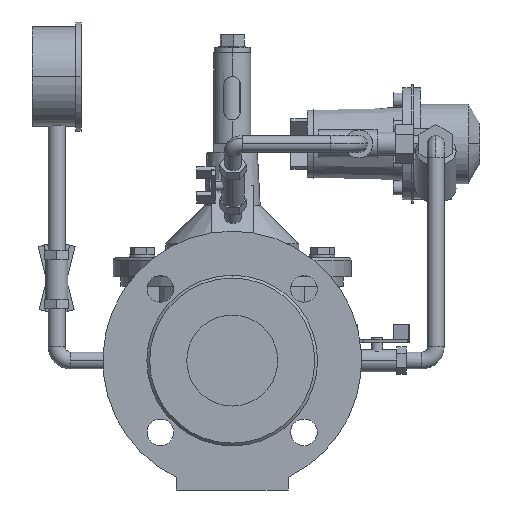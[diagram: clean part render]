
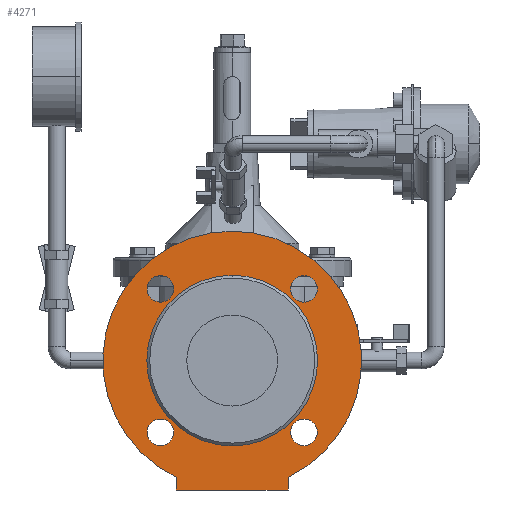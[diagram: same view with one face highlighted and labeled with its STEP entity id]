
A CAD part, left-side view. The second image highlights one B-rep face of the part: STEP entity #4271.
In plain terms, the highlighted planar face has unit normal (-1, 0, 0).
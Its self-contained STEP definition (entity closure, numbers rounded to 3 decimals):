
#4271=ADVANCED_FACE('',(#8214,#8215,#8216,#8217,#8218,#8219),#8220,.F.);
#8214=FACE_BOUND('',#13098,.T.);
#8215=FACE_BOUND('',#13099,.T.);
#8216=FACE_BOUND('',#13100,.T.);
#8217=FACE_BOUND('',#13101,.T.);
#8218=FACE_BOUND('',#13102,.T.);
#8219=FACE_OUTER_BOUND('',#13103,.T.);
#8220=PLANE('',#13104);
#13098=EDGE_LOOP('',(#20018,#20019));
#13099=EDGE_LOOP('',(#20020,#20021));
#13100=EDGE_LOOP('',(#20022,#20023));
#13101=EDGE_LOOP('',(#20024,#20025));
#13102=EDGE_LOOP('',(#20026,#20027));
#13103=EDGE_LOOP('',(#20028,#20029,#20030,#20031,#20032));
#13104=AXIS2_PLACEMENT_3D('',#20033,#20034,#20035);
#20018=ORIENTED_EDGE('',*,*,#28273,.T.);
#20019=ORIENTED_EDGE('',*,*,#28274,.T.);
#20020=ORIENTED_EDGE('',*,*,#27562,.T.);
#20021=ORIENTED_EDGE('',*,*,#28213,.T.);
#20022=ORIENTED_EDGE('',*,*,#26583,.T.);
#20023=ORIENTED_EDGE('',*,*,#26386,.T.);
#20024=ORIENTED_EDGE('',*,*,#27539,.T.);
#20025=ORIENTED_EDGE('',*,*,#28275,.T.);
#20026=ORIENTED_EDGE('',*,*,#27034,.T.);
#20027=ORIENTED_EDGE('',*,*,#27441,.T.);
#20028=ORIENTED_EDGE('',*,*,#28276,.F.);
#20029=ORIENTED_EDGE('',*,*,#28277,.F.);
#20030=ORIENTED_EDGE('',*,*,#26895,.F.);
#20031=ORIENTED_EDGE('',*,*,#27866,.F.);
#20032=ORIENTED_EDGE('',*,*,#27298,.F.);
#20033=CARTESIAN_POINT('',(2.0,0.0,0.));
#20034=DIRECTION('',(1.0,0.0,0.));
#20035=DIRECTION('',(0.,0.0,-1.0));
#26386=EDGE_CURVE('',#30968,#30966,#30969,.T.);
#26583=EDGE_CURVE('',#30966,#30968,#31296,.T.);
#26895=EDGE_CURVE('',#31809,#31810,#31811,.T.);
#27034=EDGE_CURVE('',#32027,#32029,#32031,.T.);
#27298=EDGE_CURVE('',#32444,#32446,#32447,.T.);
#27441=EDGE_CURVE('',#32029,#32027,#32654,.T.);
#27539=EDGE_CURVE('',#32804,#32806,#32808,.T.);
#27562=EDGE_CURVE('',#32836,#32838,#32840,.T.);
#27866=EDGE_CURVE('',#32446,#31809,#33282,.T.);
#28213=EDGE_CURVE('',#32838,#32836,#33779,.T.);
#28273=EDGE_CURVE('',#33861,#33862,#33863,.T.);
#28274=EDGE_CURVE('',#33862,#33861,#33864,.T.);
#28275=EDGE_CURVE('',#32806,#32804,#33865,.T.);
#28276=EDGE_CURVE('',#33866,#32444,#33867,.T.);
#28277=EDGE_CURVE('',#31810,#33866,#33868,.T.);
#30966=VERTEX_POINT('',#37717);
#30968=VERTEX_POINT('',#37720);
#30969=CIRCLE('',#37721,9.5);
#31296=CIRCLE('',#38251,9.5);
#31809=VERTEX_POINT('',#38938);
#31810=VERTEX_POINT('',#38939);
#31811=LINE('',#38940,#38941);
#32027=VERTEX_POINT('',#39225);
#32029=VERTEX_POINT('',#39228);
#32031=CIRCLE('',#39231,9.5);
#32444=VERTEX_POINT('',#39862);
#32446=VERTEX_POINT('',#39865);
#32447=CIRCLE('',#39866,92.5);
#32654=CIRCLE('',#40213,9.5);
#32804=VERTEX_POINT('',#40417);
#32806=VERTEX_POINT('',#40420);
#32808=CIRCLE('',#40423,9.5);
#32836=VERTEX_POINT('',#40460);
#32838=VERTEX_POINT('',#40463);
#32840=CIRCLE('',#40466,9.5);
#33282=LINE('',#41053,#41054);
#33779=CIRCLE('',#41815,9.5);
#33861=VERTEX_POINT('',#41933);
#33862=VERTEX_POINT('',#41934);
#33863=CIRCLE('',#41935,32.5);
#33864=CIRCLE('',#41936,32.5);
#33865=CIRCLE('',#41937,9.5);
#33866=VERTEX_POINT('',#41938);
#33867=CIRCLE('',#41939,92.5);
#33868=LINE('',#41940,#41941);
#37717=CARTESIAN_POINT('',(2.0,51.265,41.765));
#37720=CARTESIAN_POINT('',(2.0,51.265,60.765));
#37721=AXIS2_PLACEMENT_3D('',#53292,#53293,#53294);
#38251=AXIS2_PLACEMENT_3D('',#53563,#53564,#53565);
#38938=CARTESIAN_POINT('',(2.0,-40.0,-92.5));
#38939=CARTESIAN_POINT('',(2.0,40.0,-92.5));
#38940=CARTESIAN_POINT('',(2.0,-40.0,-92.5));
#38941=VECTOR('',#53926,1.0);
#39225=CARTESIAN_POINT('',(2.0,-51.265,-60.765));
#39228=CARTESIAN_POINT('',(2.0,-51.265,-41.765));
#39231=AXIS2_PLACEMENT_3D('',#54090,#54091,#54092);
#39862=CARTESIAN_POINT('',(2.,0.,92.5));
#39865=CARTESIAN_POINT('',(2.0,-40.0,-83.404));
#39866=AXIS2_PLACEMENT_3D('',#54389,#54390,#54391);
#40213=AXIS2_PLACEMENT_3D('',#54549,#54550,#54551);
#40417=CARTESIAN_POINT('',(2.0,-51.265,41.765));
#40420=CARTESIAN_POINT('',(2.0,-51.265,60.765));
#40423=AXIS2_PLACEMENT_3D('',#54659,#54660,#54661);
#40460=CARTESIAN_POINT('',(2.0,51.265,-60.765));
#40463=CARTESIAN_POINT('',(2.0,51.265,-41.765));
#40466=AXIS2_PLACEMENT_3D('',#54685,#54686,#54687);
#41053=CARTESIAN_POINT('',(2.0,-40.0,-72.5));
#41054=VECTOR('',#55040,1.0);
#41815=AXIS2_PLACEMENT_3D('',#55403,#55404,#55405);
#41933=CARTESIAN_POINT('',(2.0,0.0,32.5));
#41934=CARTESIAN_POINT('',(2.0,0.,-32.5));
#41935=AXIS2_PLACEMENT_3D('',#55466,#55467,#55468);
#41936=AXIS2_PLACEMENT_3D('',#55469,#55470,#55471);
#41937=AXIS2_PLACEMENT_3D('',#55472,#55473,#55474);
#41938=CARTESIAN_POINT('',(2.0,40.0,-83.404));
#41939=AXIS2_PLACEMENT_3D('',#55475,#55476,#55477);
#41940=CARTESIAN_POINT('',(2.0,40.0,-92.5));
#41941=VECTOR('',#55478,1.0);
#53292=CARTESIAN_POINT('',(2.0,51.265,51.265));
#53293=DIRECTION('',(1.0,0.0,0.));
#53294=DIRECTION('',(0.,0.0,-1.0));
#53563=CARTESIAN_POINT('',(2.0,51.265,51.265));
#53564=DIRECTION('',(1.0,0.0,0.));
#53565=DIRECTION('',(0.,0.0,-1.0));
#53926=DIRECTION('',(0.0,1.0,0.0));
#54090=CARTESIAN_POINT('',(2.0,-51.265,-51.265));
#54091=DIRECTION('',(1.0,0.0,0.));
#54092=DIRECTION('',(0.,0.0,-1.0));
#54389=CARTESIAN_POINT('',(2.0,0.0,0.));
#54390=DIRECTION('',(1.0,0.0,0.));
#54391=DIRECTION('',(0.,0.0,-1.0));
#54549=CARTESIAN_POINT('',(2.0,-51.265,-51.265));
#54550=DIRECTION('',(1.0,0.0,0.));
#54551=DIRECTION('',(0.,0.0,-1.0));
#54659=CARTESIAN_POINT('',(2.0,-51.265,51.265));
#54660=DIRECTION('',(1.0,0.0,0.));
#54661=DIRECTION('',(0.,0.0,-1.0));
#54685=CARTESIAN_POINT('',(2.0,51.265,-51.265));
#54686=DIRECTION('',(1.0,0.0,0.));
#54687=DIRECTION('',(0.,0.0,-1.0));
#55040=DIRECTION('',(0.0,0.0,-1.0));
#55403=CARTESIAN_POINT('',(2.0,51.265,-51.265));
#55404=DIRECTION('',(1.0,0.0,0.));
#55405=DIRECTION('',(0.,0.0,-1.0));
#55466=CARTESIAN_POINT('',(2.0,0.0,0.));
#55467=DIRECTION('',(1.0,0.0,0.));
#55468=DIRECTION('',(0.,0.0,1.0));
#55469=CARTESIAN_POINT('',(2.0,0.0,0.));
#55470=DIRECTION('',(1.0,0.0,0.));
#55471=DIRECTION('',(0.,0.0,1.0));
#55472=CARTESIAN_POINT('',(2.0,-51.265,51.265));
#55473=DIRECTION('',(1.0,0.0,0.));
#55474=DIRECTION('',(0.,0.0,-1.0));
#55475=CARTESIAN_POINT('',(2.0,0.0,0.));
#55476=DIRECTION('',(1.0,0.0,0.));
#55477=DIRECTION('',(0.,0.0,-1.0));
#55478=DIRECTION('',(0.0,0.0,1.0));
